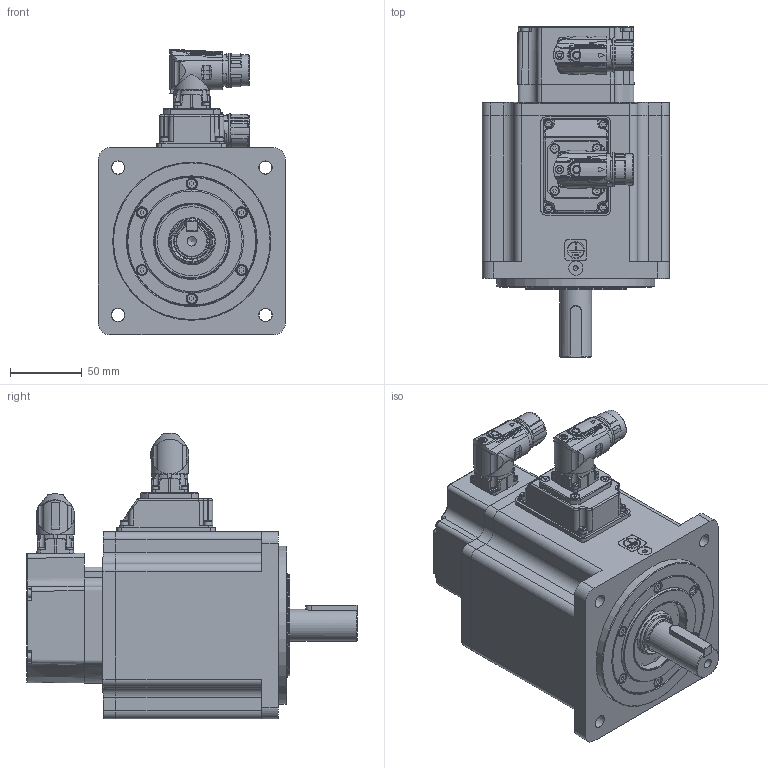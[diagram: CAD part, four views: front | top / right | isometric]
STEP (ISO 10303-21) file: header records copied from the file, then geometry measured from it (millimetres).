
FILE_DESCRIPTION( ( 'Unknown' ), '1' );
FILE_NAME( 'U:/05_Progetto TCE/010-TCE motor drawings/TCE130/Vuoti/TCE130 5F XX 3 A1 0 C2.stp', 'Unknown', ( 'Unknown' ), ( 'Unknown' ), 'PSStep 17.0.49', 'Unknown', ' ' );
FILE_SCHEMA( ( 'AUTOMOTIVE_DESIGN { 1 0 10303 214 1 1 1 1 }' ) );
Length unit declared in the file: millimetre
Products named in the file (13): 005123001528
Bounding box: 130.3 x 230 x 198.5 mm (x, y, z)
Volume: 1020348.7 mm3; surface area: 321161.6 mm2
Topology: 14 solids, 93 shells, 3023 faces, 7548 edges, 4869 vertices
Faces by surface type: plane 1454, cylinder 748, cone 288, bspline 231, torus 183, sphere 81, extrusion 38
Full cylindrical faces by diameter (mm): 0.5 x1, 1 x21, 1.2 x17, 1.4 x4, 2 x4, 2.013 x4, 2.2 x2, 2.459 x23, 2.5 x8, 2.6 x4, 2.8 x4, 3 x29, 3.2 x1, 3.242 x24, 3.5 x8, 4 x15, 4.134 x16, 4.4 x4, 4.5 x12, 4.7 x4, 5 x8, 5.5 x20, 5.8 x1, 5.9 x2, 6.647 x2, 6.8 x1, 7 x10, 8 x10, 8.5 x8, 10 x1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
Entity records: 124241 total; most frequent: CARTESIAN_POINT 37012, DIRECTION 13352, ORIENTED_EDGE 12952, EDGE_CURVE 6476, AXIS2_PLACEMENT_3D 5020, VERTEX_POINT 4598, EDGE_LOOP 4046, FACE_OUTER_BOUND 3518
